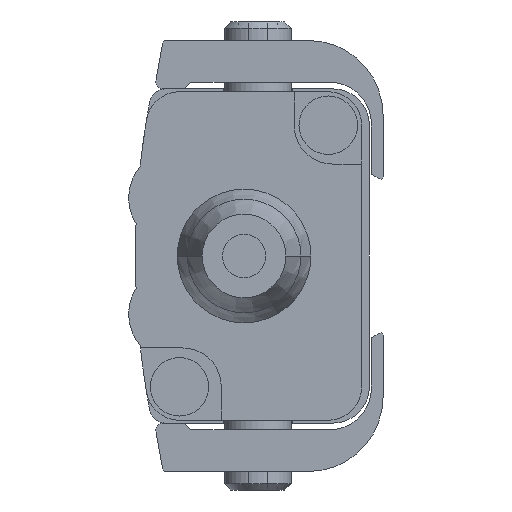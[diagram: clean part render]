
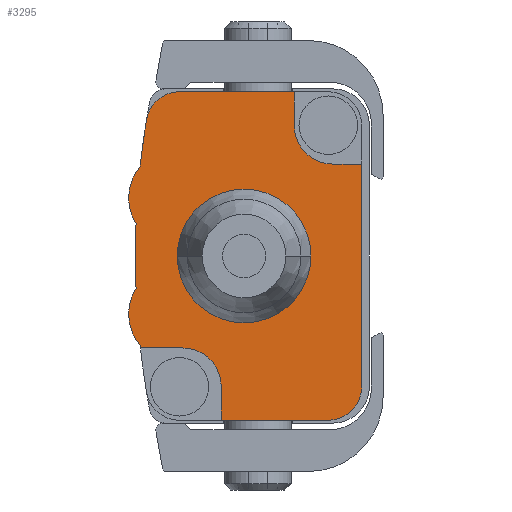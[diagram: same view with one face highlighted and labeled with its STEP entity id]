
A CAD part, left-side view. The second image highlights one B-rep face of the part: STEP entity #3295.
In plain terms, the highlighted planar face has unit normal (-1, 0, 0) as drawn and (1, 0, 0) by its records, which use the part's own axes.
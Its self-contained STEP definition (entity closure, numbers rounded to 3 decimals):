
#170=CARTESIAN_POINT('',(20.,-5.3,-7.8));
#171=DIRECTION('',(1.,0.,0.));
#172=DIRECTION('',(0.,1.,0.));
#173=AXIS2_PLACEMENT_3D('',#170,#171,#172);
#178=DIRECTION('',(0.,-1.,0.));
#179=VECTOR('',#178,1.734);
#180=CARTESIAN_POINT('',(20.,-5.3,-5.5));
#181=LINE('',#180,#179);
#185=CARTESIAN_POINT('',(20.,-5.034,7.828));
#186=DIRECTION('',(-1.,0.,0.));
#187=DIRECTION('',(0.,-1.,0.));
#188=AXIS2_PLACEMENT_3D('',#185,#186,#187);
#193=CARTESIAN_POINT('',(20.,3.666,7.8));
#194=DIRECTION('',(1.,0.,0.));
#195=DIRECTION('',(0.,-1.,0.));
#196=AXIS2_PLACEMENT_3D('',#193,#194,#195);
#201=CARTESIAN_POINT('',(20.,-44.,0.));
#202=DIRECTION('',(-1.,0.,0.));
#203=DIRECTION('',(0.,0.994,0.109));
#204=AXIS2_PLACEMENT_3D('',#201,#202,#203);
#209=CARTESIAN_POINT('',(20.,3.899,3.474));
#210=DIRECTION('',(-1.,0.,0.));
#211=DIRECTION('',(0.,0.771,0.637));
#212=AXIS2_PLACEMENT_3D('',#209,#210,#211);
#217=CARTESIAN_POINT('',(20.,3.899,-3.474));
#218=DIRECTION('',(-1.,0.,0.));
#219=DIRECTION('',(0.,0.855,0.519));
#220=AXIS2_PLACEMENT_3D('',#217,#218,#219);
#225=CARTESIAN_POINT('',(20.,-44.,0.));
#226=DIRECTION('',(-1.,0.,0.));
#227=DIRECTION('',(0.,0.994,-0.107));
#228=AXIS2_PLACEMENT_3D('',#225,#226,#227);
#233=CARTESIAN_POINT('',(20.,3.864,-7.828));
#234=DIRECTION('',(-1.,0.,0.));
#235=DIRECTION('',(0.,0.987,-0.161));
#236=AXIS2_PLACEMENT_3D('',#233,#234,#235);
#241=CARTESIAN_POINT('',(20.,0.,0.));
#242=DIRECTION('',(1.,0.,0.));
#243=DIRECTION('',(0.,1.,0.));
#244=AXIS2_PLACEMENT_3D('',#241,#242,#243);
#249=CARTESIAN_POINT('',(20.,0.,0.));
#250=DIRECTION('',(1.,0.,0.));
#251=DIRECTION('',(0.,-1.,0.));
#252=AXIS2_PLACEMENT_3D('',#249,#250,#251);
#271=DIRECTION('',(0.,0.,-1.));
#272=VECTOR('',#271,2.028);
#273=CARTESIAN_POINT('',(20.,-3.,-7.8));
#274=LINE('',#273,#272);
#336=DIRECTION('',(0.,1.,0.));
#337=VECTOR('',#336,6.864);
#338=CARTESIAN_POINT('',(20.,-3.,-9.828));
#339=LINE('',#338,#337);
#633=CARTESIAN_POINT('',(20.,-44.,0.));
#634=DIRECTION('',(1.,0.,0.));
#635=DIRECTION('',(0.,0.999,-0.038));
#636=AXIS2_PLACEMENT_3D('',#633,#634,#635);
#1955=DIRECTION('',(0.,-1.,0.));
#1956=VECTOR('',#1955,6.4);
#1957=CARTESIAN_POINT('',(20.,1.366,9.828));
#1958=LINE('',#1957,#1956);
#2045=DIRECTION('',(0.,-1.,0.));
#2046=VECTOR('',#2045,2.534);
#2047=CARTESIAN_POINT('',(20.,6.2,5.5));
#2048=LINE('',#2047,#2046);
#2066=DIRECTION('',(0.,0.,1.));
#2067=VECTOR('',#2066,2.028);
#2068=CARTESIAN_POINT('',(20.,1.366,7.8));
#2069=LINE('',#2068,#2067);
#2132=DIRECTION('',(0.,0.,-1.));
#2133=VECTOR('',#2132,13.328);
#2134=CARTESIAN_POINT('',(20.,-7.034,7.828));
#2135=LINE('',#2134,#2133);
#2569=CARTESIAN_POINT('',(20.,-4.,0.));
#2570=CARTESIAN_POINT('',(20.,4.,0.));
#2571=VERTEX_POINT('',#2569);
#2572=VERTEX_POINT('',#2570);
#2573=CARTESIAN_POINT('',(20.,-3.,-7.8));
#2574=CARTESIAN_POINT('',(20.,-5.3,-5.5));
#2575=VERTEX_POINT('',#2573);
#2576=VERTEX_POINT('',#2574);
#2577=CARTESIAN_POINT('',(20.,-7.034,-5.5));
#2578=VERTEX_POINT('',#2577);
#2579=CARTESIAN_POINT('',(20.,-7.034,7.828));
#2580=VERTEX_POINT('',#2579);
#2581=CARTESIAN_POINT('',(20.,-5.034,9.828));
#2582=VERTEX_POINT('',#2581);
#2583=CARTESIAN_POINT('',(20.,1.366,9.828));
#2584=VERTEX_POINT('',#2583);
#2585=CARTESIAN_POINT('',(20.,1.366,7.8));
#2586=VERTEX_POINT('',#2585);
#2587=CARTESIAN_POINT('',(20.,3.666,5.5));
#2588=VERTEX_POINT('',#2587);
#2589=CARTESIAN_POINT('',(20.,6.2,5.5));
#2590=VERTEX_POINT('',#2589);
#2591=CARTESIAN_POINT('',(20.,6.212,5.384));
#2592=VERTEX_POINT('',#2591);
#2593=CARTESIAN_POINT('',(20.,6.464,1.917));
#2594=VERTEX_POINT('',#2593);
#2595=CARTESIAN_POINT('',(20.,6.464,-1.917));
#2596=CARTESIAN_POINT('',(20.,6.212,-5.384));
#2597=VERTEX_POINT('',#2595);
#2598=VERTEX_POINT('',#2596);
#2599=CARTESIAN_POINT('',(20.,5.838,-8.15));
#2600=VERTEX_POINT('',#2599);
#2601=CARTESIAN_POINT('',(20.,3.864,-9.828));
#2602=VERTEX_POINT('',#2601);
#2603=CARTESIAN_POINT('',(20.,-3.,-9.828));
#2604=VERTEX_POINT('',#2603);
#3251=CARTESIAN_POINT('',(20.,0.,0.));
#3252=DIRECTION('',(-1.,0.,0.));
#3253=DIRECTION('',(0.,1.,0.));
#3254=AXIS2_PLACEMENT_3D('',#3251,#3252,#3253);
#3255=PLANE('',#3254);
#3257=ORIENTED_EDGE('',*,*,#3256,.T.);
#3259=ORIENTED_EDGE('',*,*,#3258,.T.);
#3261=ORIENTED_EDGE('',*,*,#3260,.F.);
#3263=ORIENTED_EDGE('',*,*,#3262,.T.);
#3265=ORIENTED_EDGE('',*,*,#3264,.F.);
#3267=ORIENTED_EDGE('',*,*,#3266,.F.);
#3269=ORIENTED_EDGE('',*,*,#3268,.T.);
#3271=ORIENTED_EDGE('',*,*,#3270,.F.);
#3273=ORIENTED_EDGE('',*,*,#3272,.T.);
#3275=ORIENTED_EDGE('',*,*,#3274,.T.);
#3277=ORIENTED_EDGE('',*,*,#3276,.F.);
#3279=ORIENTED_EDGE('',*,*,#3278,.T.);
#3281=ORIENTED_EDGE('',*,*,#3280,.T.);
#3283=ORIENTED_EDGE('',*,*,#3282,.T.);
#3285=ORIENTED_EDGE('',*,*,#3284,.F.);
#3287=ORIENTED_EDGE('',*,*,#3286,.F.);
#3288=EDGE_LOOP('',(#3257,#3259,#3261,#3263,#3265,#3267,#3269,#3271,#3273,#3275,
#3277,#3279,#3281,#3283,#3285,#3287));
#3289=FACE_OUTER_BOUND('',#3288,.F.);
#3291=ORIENTED_EDGE('',*,*,#3290,.T.);
#3292=ORIENTED_EDGE('',*,*,#3229,.T.);
#3293=EDGE_LOOP('',(#3291,#3292));
#3294=FACE_BOUND('',#3293,.F.);
#3295=ADVANCED_FACE('',(#3289,#3294),#3255,.F.);
#174=CIRCLE('',#173,2.3);
#189=CIRCLE('',#188,2.);
#197=CIRCLE('',#196,2.3);
#205=CIRCLE('',#204,50.5);
#213=CIRCLE('',#212,3.);
#221=CIRCLE('',#220,3.);
#229=CIRCLE('',#228,50.5);
#237=CIRCLE('',#236,2.);
#245=CIRCLE('',#244,4.);
#253=CIRCLE('',#252,4.);
#637=CIRCLE('',#636,50.5);
#3229=EDGE_CURVE('',#2571,#2572,#253,.T.);
#3256=EDGE_CURVE('',#2575,#2576,#174,.T.);
#3258=EDGE_CURVE('',#2576,#2578,#181,.T.);
#3260=EDGE_CURVE('',#2580,#2578,#2135,.T.);
#3262=EDGE_CURVE('',#2580,#2582,#189,.T.);
#3264=EDGE_CURVE('',#2584,#2582,#1958,.T.);
#3266=EDGE_CURVE('',#2586,#2584,#2069,.T.);
#3268=EDGE_CURVE('',#2586,#2588,#197,.T.);
#3270=EDGE_CURVE('',#2590,#2588,#2048,.T.);
#3272=EDGE_CURVE('',#2590,#2592,#205,.T.);
#3274=EDGE_CURVE('',#2592,#2594,#213,.T.);
#3276=EDGE_CURVE('',#2597,#2594,#637,.T.);
#3278=EDGE_CURVE('',#2597,#2598,#221,.T.);
#3280=EDGE_CURVE('',#2598,#2600,#229,.T.);
#3282=EDGE_CURVE('',#2600,#2602,#237,.T.);
#3284=EDGE_CURVE('',#2604,#2602,#339,.T.);
#3286=EDGE_CURVE('',#2575,#2604,#274,.T.);
#3290=EDGE_CURVE('',#2572,#2571,#245,.T.);
